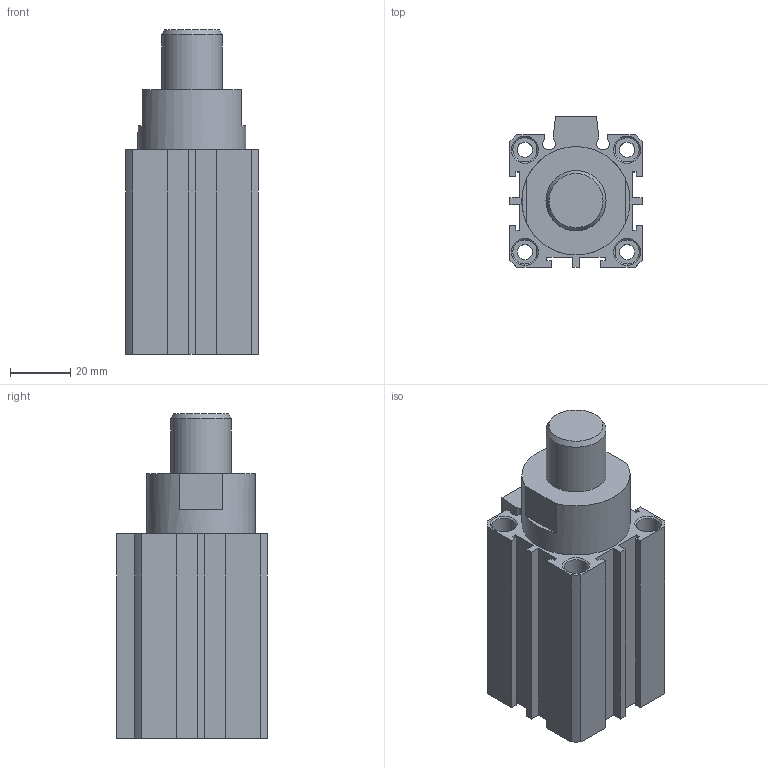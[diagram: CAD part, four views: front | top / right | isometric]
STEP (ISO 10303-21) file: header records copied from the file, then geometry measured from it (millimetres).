
FILE_DESCRIPTION((''),'2;1');
FILE_NAME('I:\3D電子目錄\氣缸\STB\STB32\STB32x20.stp','2007-09-19T13:24:03',('Administrator'),(''),'Autodesk Inventor 11','Autodesk Inventor 11','');
FILE_SCHEMA(('AUTOMOTIVE_DESIGN { 1 0 10303 214 1 1 1 1 }'));
Length unit declared in the file: millimetre
Products named in the file (1): STB32
Bounding box: 44 x 50 x 108 mm (x, y, z)
Volume: 139816.6 mm3; surface area: 30754.2 mm2
Topology: 1 solids, 1 shells, 117 faces, 277 edges, 181 vertices
Faces by surface type: plane 70, cylinder 26, cone 13, bspline 7, torus 1
Full cylindrical faces by diameter (mm): 2.2 x2, 5.1 x4, 8 x8, 20 x1, 23 x1, 34 x2, 36 x2
Entity records: 3242 total; most frequent: CARTESIAN_POINT 632, DIRECTION 532, ORIENTED_EDGE 468, EDGE_CURVE 234, AXIS2_PLACEMENT_3D 187, EDGE_LOOP 182, VERTEX_POINT 176, VECTOR 158
